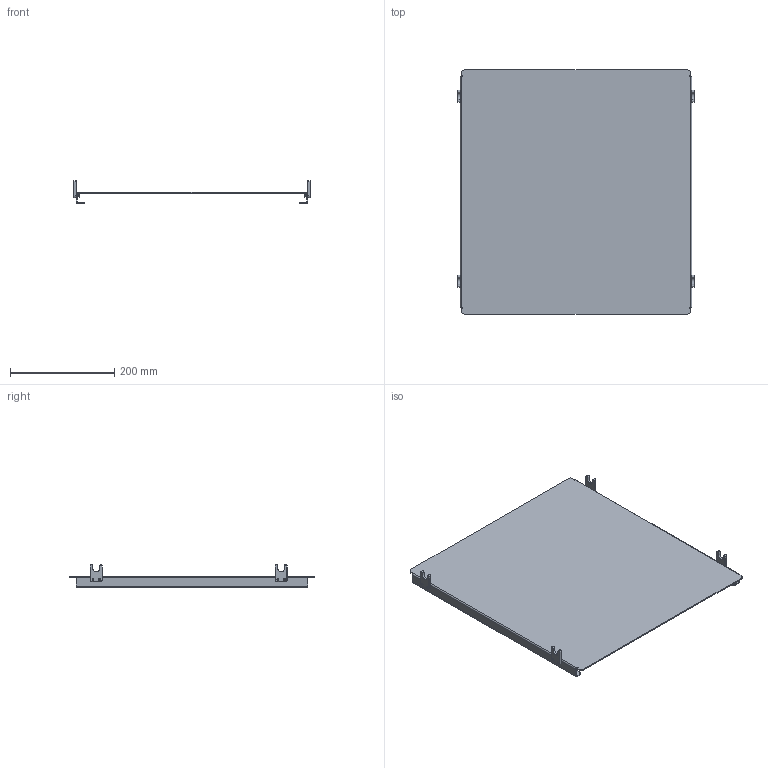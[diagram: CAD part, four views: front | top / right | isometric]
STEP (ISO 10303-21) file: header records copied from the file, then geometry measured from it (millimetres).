
FILE_DESCRIPTION(/* description */ (''),/* implementation_level */ '2;1');
FILE_NAME(/* name */ 'C:\Marketing\Inventor Web Projects\STP files\561996-RevA-STP.stp',/* time_stamp */ '2014-04-15T13:41:32-05:00',/* author */ ('shodnett'),/* organization */ (''),/* preprocessor_version */ 'ST-DEVELOPER v15.2',/* originating_system */ 'Autodesk Inventor 2014',/* authorisation */ '');
FILE_SCHEMA (('AUTOMOTIVE_DESIGN { 1 0 10303 214 3 1 1 }'));
Length unit declared in the file: inch
Products named in the file (1): 561996-CU
Bounding box: 454.53 x 469.9 x 43.54 mm (x, y, z)
Surface area: 497789.9 mm2 (no closed solid volume)
Topology: 0 solids, 76 shells, 1230 faces, 3102 edges, 2032 vertices
Faces by surface type: plane 837, bspline 213, cylinder 100, cone 80
Full cylindrical faces by diameter (mm): 2.642 x8, 3.505 x8, 3.81 x8, 5.74 x8, 9.524 x7
Entity records: 38221 total; most frequent: CARTESIAN_POINT 9319, ORIENTED_EDGE 6038, DIRECTION 4821, EDGE_CURVE 3019, LINE 2145, VECTOR 2145, VERTEX_POINT 2012, EDGE_LOOP 1363
